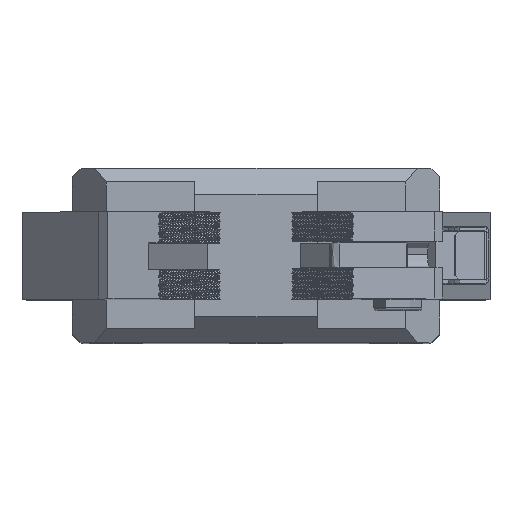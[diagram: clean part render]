
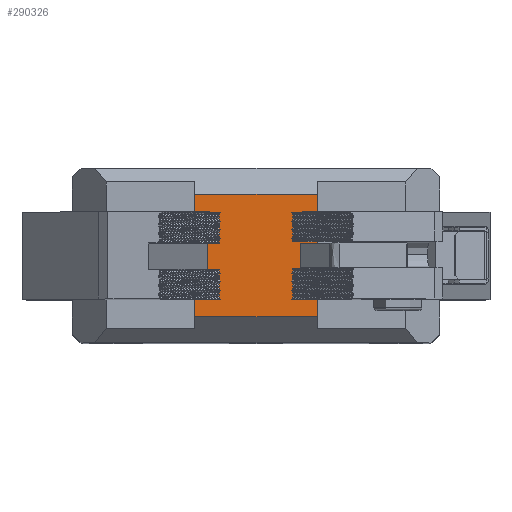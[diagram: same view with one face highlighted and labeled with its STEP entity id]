
A CAD part, top view. The second image highlights one B-rep face of the part: STEP entity #290326.
In plain terms, the highlighted planar face has unit normal (0, 0, 1).
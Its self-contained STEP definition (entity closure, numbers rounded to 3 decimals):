
#2367 = CARTESIAN_POINT ( 'NONE',  ( 430.585, -50.299, 47.09 ) ) ;
#5243 = ORIENTED_EDGE ( 'NONE', *, *, #139130, .T. ) ;
#5837 = VERTEX_POINT ( 'NONE', #41197 ) ;
#20838 = VERTEX_POINT ( 'NONE', #283861 ) ;
#25632 = VERTEX_POINT ( 'NONE', #166191 ) ;
#25801 = DIRECTION ( 'NONE',  ( -1., 0., 0. ) ) ;
#29561 = VERTEX_POINT ( 'NONE', #194881 ) ;
#40460 = LINE ( 'NONE', #200343, #164620 ) ;
#41197 = CARTESIAN_POINT ( 'NONE',  ( 430.585, -41.799, 47.09 ) ) ;
#51521 = LINE ( 'NONE', #139340, #168348 ) ;
#71070 = DIRECTION ( 'NONE',  ( -1., 0., 0. ) ) ;
#83650 = VECTOR ( 'NONE', #204989, 1000. ) ;
#120929 = FACE_OUTER_BOUND ( 'NONE', #234055, .T. ) ;
#125190 = LINE ( 'NONE', #234429, #187303 ) ;
#139130 = EDGE_CURVE ( 'NONE', #5837, #20838, #200521, .T. ) ;
#139340 = CARTESIAN_POINT ( 'NONE',  ( 430.585, -41.799, 47.09 ) ) ;
#162135 = ORIENTED_EDGE ( 'NONE', *, *, #255202, .T. ) ;
#162774 = DIRECTION ( 'NONE',  ( 1., 0., 0. ) ) ;
#163470 = EDGE_CURVE ( 'NONE', #29561, #5837, #51521, .T. ) ;
#164620 = VECTOR ( 'NONE', #198366, 1000. ) ;
#165162 = EDGE_CURVE ( 'NONE', #29561, #25632, #40460, .T. ) ;
#165674 = DIRECTION ( 'NONE',  ( 0., 0., -1. ) ) ;
#166191 = CARTESIAN_POINT ( 'NONE',  ( 416.585, -27.799, 47.09 ) ) ;
#168348 = VECTOR ( 'NONE', #162774, 1000. ) ;
#187303 = VECTOR ( 'NONE', #71070, 1000. ) ;
#194881 = CARTESIAN_POINT ( 'NONE',  ( 416.585, -41.799, 47.09 ) ) ;
#195522 = ORIENTED_EDGE ( 'NONE', *, *, #165162, .F. ) ;
#198366 = DIRECTION ( 'NONE',  ( 0., 1., 0. ) ) ;
#200343 = CARTESIAN_POINT ( 'NONE',  ( 416.585, -50.299, 47.09 ) ) ;
#200521 = LINE ( 'NONE', #299033, #83650 ) ;
#204989 = DIRECTION ( 'NONE',  ( 0., 1., 0. ) ) ;
#211726 = PLANE ( 'NONE',  #264035 ) ;
#216652 = ORIENTED_EDGE ( 'NONE', *, *, #163470, .T. ) ;
#234055 = EDGE_LOOP ( 'NONE', ( #195522, #216652, #5243, #162135 ) ) ;
#234429 = CARTESIAN_POINT ( 'NONE',  ( 407.585, -27.799, 47.09 ) ) ;
#255202 = EDGE_CURVE ( 'NONE', #20838, #25632, #125190, .T. ) ;
#264035 = AXIS2_PLACEMENT_3D ( 'NONE', #2367, #165674, #25801 ) ;
#283861 = CARTESIAN_POINT ( 'NONE',  ( 430.585, -27.799, 47.09 ) ) ;
#290326 = ADVANCED_FACE ( 'NONE', ( #120929 ), #211726, .F. ) ;
#299033 = CARTESIAN_POINT ( 'NONE',  ( 430.585, -50.299, 47.09 ) ) ;
